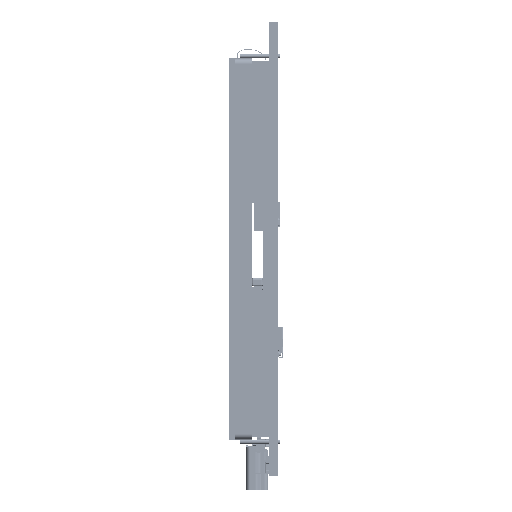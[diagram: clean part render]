
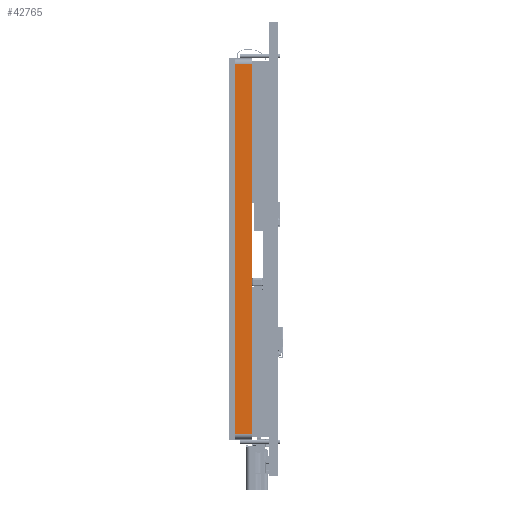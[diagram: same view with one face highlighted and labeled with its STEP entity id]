
A CAD part, left-side view. The second image highlights one B-rep face of the part: STEP entity #42765.
In plain terms, the highlighted planar face has unit normal (-1, 0, 0).
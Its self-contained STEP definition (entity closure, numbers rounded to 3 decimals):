
#7999 = EDGE_CURVE ( 'NONE', #91340, #163110, #140485, .T. ) ;
#10189 = DIRECTION ( 'NONE',  ( 0., 0., 1. ) ) ;
#21275 = LINE ( 'NONE', #119317, #131809 ) ;
#23563 = VERTEX_POINT ( 'NONE', #78812 ) ;
#37477 = LINE ( 'NONE', #182420, #143476 ) ;
#39113 = ORIENTED_EDGE ( 'NONE', *, *, #171757, .T. ) ;
#42765 = ADVANCED_FACE ( 'NONE', ( #108259 ), #139451, .F. ) ;
#45275 = CARTESIAN_POINT ( 'NONE',  ( -51.19, 4.6, 43.815 ) ) ;
#50944 = VECTOR ( 'NONE', #10189, 1000. ) ;
#53133 = CARTESIAN_POINT ( 'NONE',  ( -51.19, 7.55, -22.385 ) ) ;
#60209 = EDGE_CURVE ( 'NONE', #134617, #163110, #37477, .T. ) ;
#63869 = VECTOR ( 'NONE', #70718, 1000. ) ;
#67075 = DIRECTION ( 'NONE',  ( 0., 0., 1. ) ) ;
#70718 = DIRECTION ( 'NONE',  ( 0., 1., 0. ) ) ;
#78812 = CARTESIAN_POINT ( 'NONE',  ( -51.19, 4.6, -21.385 ) ) ;
#82051 = CARTESIAN_POINT ( 'NONE',  ( -51.19, 4.6, -22.385 ) ) ;
#82087 = DIRECTION ( 'NONE',  ( 0., 0., -1. ) ) ;
#86201 = AXIS2_PLACEMENT_3D ( 'NONE', #53133, #168463, #82087 ) ;
#89743 = DIRECTION ( 'NONE',  ( 0., -1., 0. ) ) ;
#91340 = VERTEX_POINT ( 'NONE', #45275 ) ;
#105647 = CARTESIAN_POINT ( 'NONE',  ( -51.19, 7.55, 43.815 ) ) ;
#108259 = FACE_OUTER_BOUND ( 'NONE', #119121, .T. ) ;
#110954 = ORIENTED_EDGE ( 'NONE', *, *, #156431, .T. ) ;
#119121 = EDGE_LOOP ( 'NONE', ( #110954, #174579, #156368, #39113 ) ) ;
#119317 = CARTESIAN_POINT ( 'NONE',  ( -51.19, 7.55, -21.385 ) ) ;
#123067 = LINE ( 'NONE', #82051, #50944 ) ;
#131809 = VECTOR ( 'NONE', #89743, 1000. ) ;
#134617 = VERTEX_POINT ( 'NONE', #178515 ) ;
#139451 = PLANE ( 'NONE',  #86201 ) ;
#140485 = LINE ( 'NONE', #142519, #63869 ) ;
#142519 = CARTESIAN_POINT ( 'NONE',  ( -51.19, 7.55, 43.815 ) ) ;
#143476 = VECTOR ( 'NONE', #67075, 1000. ) ;
#156368 = ORIENTED_EDGE ( 'NONE', *, *, #60209, .F. ) ;
#156431 = EDGE_CURVE ( 'NONE', #23563, #91340, #123067, .T. ) ;
#163110 = VERTEX_POINT ( 'NONE', #105647 ) ;
#168463 = DIRECTION ( 'NONE',  ( 1., 0., 0. ) ) ;
#171757 = EDGE_CURVE ( 'NONE', #134617, #23563, #21275, .T. ) ;
#174579 = ORIENTED_EDGE ( 'NONE', *, *, #7999, .T. ) ;
#178515 = CARTESIAN_POINT ( 'NONE',  ( -51.19, 7.55, -21.385 ) ) ;
#182420 = CARTESIAN_POINT ( 'NONE',  ( -51.19, 7.55, -22.385 ) ) ;
